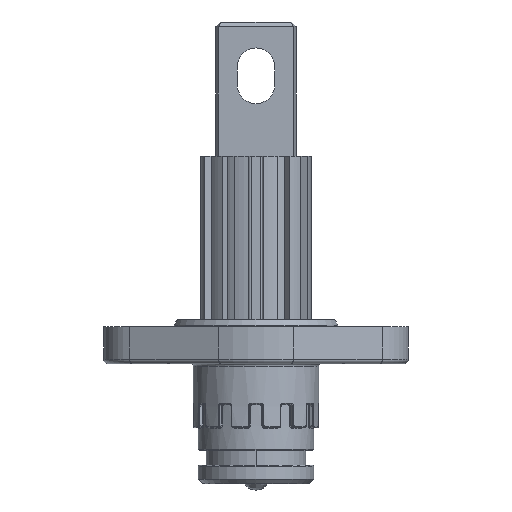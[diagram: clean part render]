
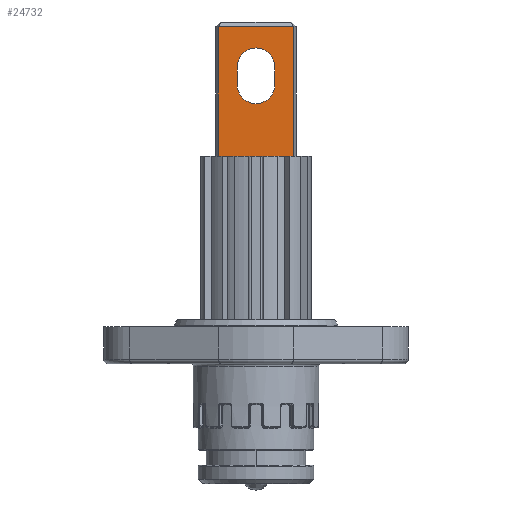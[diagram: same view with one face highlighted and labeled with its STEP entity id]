
A CAD part, front view. The second image highlights one B-rep face of the part: STEP entity #24732.
In plain terms, the highlighted planar face has unit normal (0, -1, 0).
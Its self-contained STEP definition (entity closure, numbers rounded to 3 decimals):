
#2702=DIRECTION('',(1.,0.,0.));
#2703=VECTOR('',#2702,8.414);
#2704=CARTESIAN_POINT('',(-4.207,-1.525,23.1));
#2705=LINE('',#2704,#2703);
#7220=CARTESIAN_POINT('',(0.,-1.525,31.1));
#7221=DIRECTION('',(0.,1.,0.));
#7222=DIRECTION('',(1.,0.,0.));
#7223=AXIS2_PLACEMENT_3D('',#7220,#7221,#7222);
#7225=DIRECTION('',(0.,0.,-1.));
#7226=VECTOR('',#7225,2.);
#7227=CARTESIAN_POINT('',(2.1,-1.525,33.1));
#7228=LINE('',#7227,#7226);
#7229=CARTESIAN_POINT('',(0.,-1.525,33.1));
#7230=DIRECTION('',(0.,1.,0.));
#7231=DIRECTION('',(-1.,0.,0.));
#7232=AXIS2_PLACEMENT_3D('',#7229,#7230,#7231);
#7234=DIRECTION('',(0.,0.,1.));
#7235=VECTOR('',#7234,2.);
#7236=CARTESIAN_POINT('',(-2.1,-1.525,31.1));
#7237=LINE('',#7236,#7235);
#7238=DIRECTION('',(0.,0.,1.));
#7239=VECTOR('',#7238,14.5);
#7240=CARTESIAN_POINT('',(-4.207,-1.525,23.1));
#7241=LINE('',#7240,#7239);
#7242=DIRECTION('',(1.,0.,0.));
#7243=VECTOR('',#7242,8.414);
#7244=CARTESIAN_POINT('',(-4.207,-1.525,
37.6));
#7245=LINE('',#7244,#7243);
#7246=DIRECTION('',(0.,0.,-1.));
#7247=VECTOR('',#7246,14.5);
#7248=CARTESIAN_POINT('',(4.207,-1.525,37.6));
#7249=LINE('',#7248,#7247);
#8686=CARTESIAN_POINT('',(2.1,-1.525,31.1));
#8687=CARTESIAN_POINT('',(-2.1,-1.525,31.1));
#8688=VERTEX_POINT('',#8686);
#8689=VERTEX_POINT('',#8687);
#8690=CARTESIAN_POINT('',(-2.1,-1.525,33.1));
#8691=VERTEX_POINT('',#8690);
#8692=CARTESIAN_POINT('',(2.1,-1.525,33.1));
#8693=VERTEX_POINT('',#8692);
#8710=CARTESIAN_POINT('',(-4.207,-1.525,37.6));
#8712=VERTEX_POINT('',#8710);
#8716=CARTESIAN_POINT('',(4.207,-1.525,37.6));
#8717=VERTEX_POINT('',#8716);
#8727=CARTESIAN_POINT('',(-4.207,-1.525,23.1));
#8729=VERTEX_POINT('',#8727);
#8730=CARTESIAN_POINT('',(4.207,-1.525,23.1));
#8732=VERTEX_POINT('',#8730);
#24711=CARTESIAN_POINT('',(-4.207,-1.525,20.7));
#24712=DIRECTION('',(0.,1.,0.));
#24713=DIRECTION('',(1.,0.,0.));
#24714=AXIS2_PLACEMENT_3D('',#24711,#24712,#24713);
#24715=PLANE('',#24714);
#24716=ORIENTED_EDGE('',*,*,#24653,.T.);
#24718=ORIENTED_EDGE('',*,*,#24717,.T.);
#24719=ORIENTED_EDGE('',*,*,#24664,.T.);
#24720=ORIENTED_EDGE('',*,*,#11873,.F.);
#24721=EDGE_LOOP('',(#24716,#24718,#24719,#24720));
#24722=FACE_OUTER_BOUND('',#24721,.F.);
#24723=ORIENTED_EDGE('',*,*,#24701,.F.);
#24725=ORIENTED_EDGE('',*,*,#24724,.F.);
#24727=ORIENTED_EDGE('',*,*,#24726,.F.);
#24729=ORIENTED_EDGE('',*,*,#24728,.F.);
#24730=EDGE_LOOP('',(#24723,#24725,#24727,#24729));
#24731=FACE_BOUND('',#24730,.F.);
#24732=ADVANCED_FACE('',(#24722,#24731),#24715,.F.);
#7224=CIRCLE('',#7223,2.1);
#7233=CIRCLE('',#7232,2.1);
#11873=EDGE_CURVE('',#8729,#8732,#2705,.T.);
#24653=EDGE_CURVE('',#8729,#8712,#7241,.T.);
#24664=EDGE_CURVE('',#8717,#8732,#7249,.T.);
#24701=EDGE_CURVE('',#8688,#8689,#7224,.T.);
#24717=EDGE_CURVE('',#8712,#8717,#7245,.T.);
#24724=EDGE_CURVE('',#8693,#8688,#7228,.T.);
#24726=EDGE_CURVE('',#8691,#8693,#7233,.T.);
#24728=EDGE_CURVE('',#8689,#8691,#7237,.T.);
